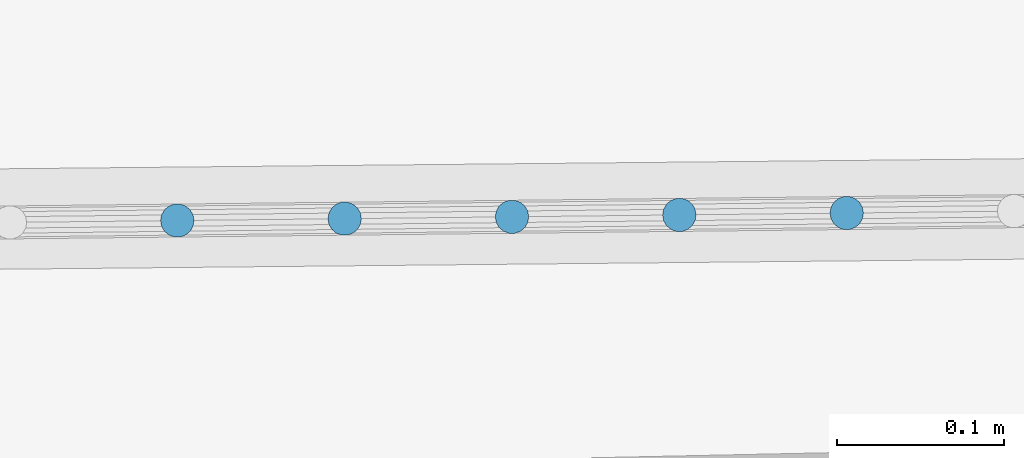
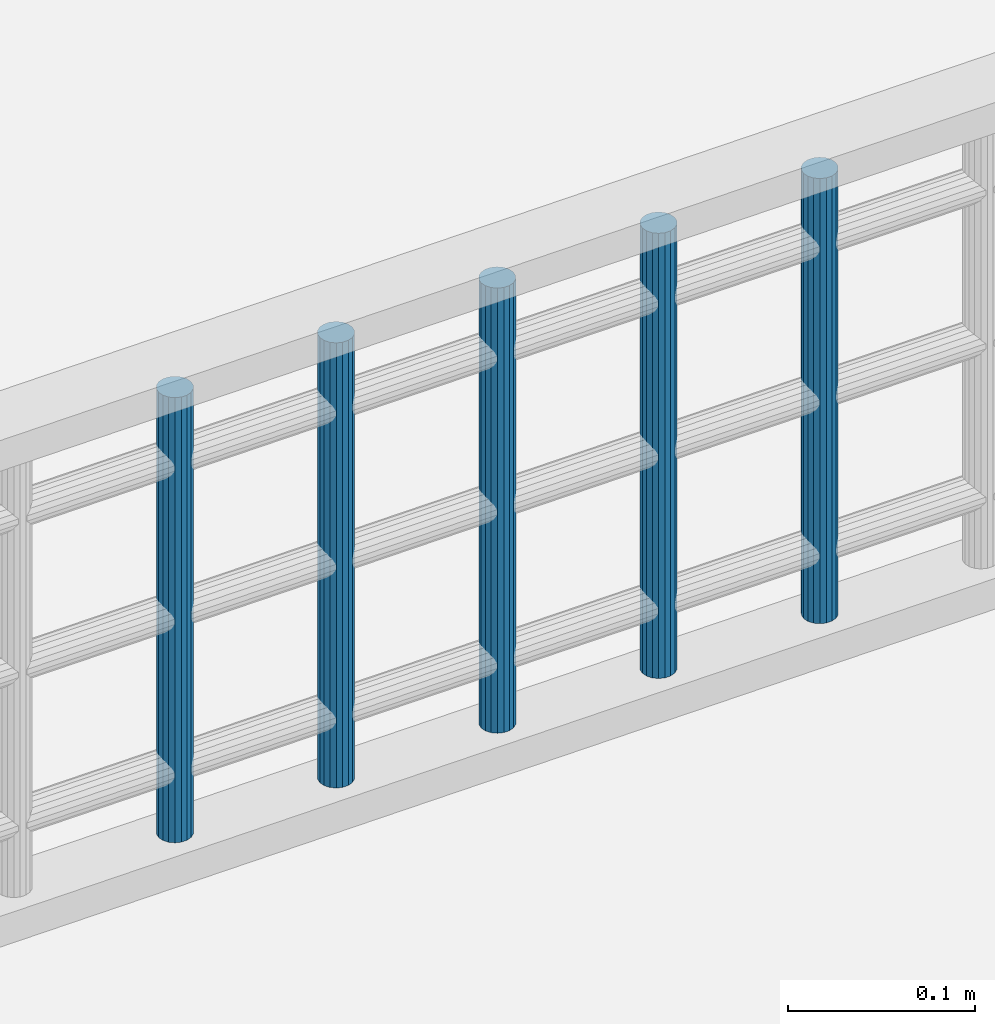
# One storey, part 29 of 97: 5 members, 1 element without a shape of its own.
"""IFC2X3 building model written with IfcOpenShell, lengths in centimetres."""

from ifc_helpers import new_model, entity, si_unit, converted_unit, direction, frame, origin, origin_with_axes, place, context, subcontext, project, spatial, faceted_brep, material, type_object, element, aggregate, save


model = new_model("IFC2X3")

# Units and contexts
model_context = context("Model", 3, precision=0.0001, world=origin(), true_north=direction((0.225632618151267, 0.974212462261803, 0.0)))
body_context = subcontext(model_context, "Body", "Model", "MODEL_VIEW")
ifc_project = project(units=[si_unit("LENGTHUNIT", "METRE", prefix="CENTI"), si_unit("AREAUNIT", "SQUARE_METRE", prefix="CENTI"), si_unit("VOLUMEUNIT", "CUBIC_METRE", prefix="CENTI"), converted_unit("PLANEANGLEUNIT", "DEGREE", entity("IfcRatioMeasure", 0.0174532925), si_unit("PLANEANGLEUNIT", "RADIAN"), dimensions=[0, 0, 0, 0, 0, 0, 0])], contexts=[model_context])

# Site, building, storey
site_placement = place(None, origin_with_axes())
site = spatial("IfcSite", under=ifc_project, at=site_placement, Name="Default Site", CompositionType="ELEMENT")
building_placement = place(site_placement, origin_with_axes())
building = spatial("IfcBuilding", under=site, at=building_placement, Name="Default Building", CompositionType="ELEMENT")
storey_placement = place(building_placement, origin_with_axes())
storey = spatial("IfcBuildingStorey", under=building, at=storey_placement, Name="Rez-de-chaussée", CompositionType="ELEMENT", Elevation=0.0)

# Assembly, members
building_element_proxy_type = type_object("IfcBuildingElementProxyType", Name="Type Object", PredefinedType="NOTDEFINED")
assembly_placement = place(storey_placement, frame((1081.21588561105, -852.417794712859, 9.99999999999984), z_axis=(0.0, 0.0, 1.0), x_axis=(-0.999937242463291, -0.0112031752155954, 0.0)))
assembly = element("IfcElementAssembly", 1, at=assembly_placement, inside=storey, type_object=building_element_proxy_type, Name="Panneau 1702014", ObjectType="Precast panel", PredefinedType="USERDEFINED")
ifc_material = material(Name="Aluminium satiné")
member_1_placement = place(assembly_placement, frame((107.439696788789, 0.342020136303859, 31.0000002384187), z_axis=(0.0, 0.0, 1.0), x_axis=(0.500008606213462, -0.866020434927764, 0.0)))
member_1 = element("IfcMember", 2, at=member_1_placement, material=ifc_material, Name="4294967139", context=body_context, shape_type="Brep", body=[
    faceted_brep([(-6.99440505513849e-13, -2.99760216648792e-13, 5.55111512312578e-15), (-0.347298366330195, -2.99760216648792e-13, 5.55111512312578e-15), (-0.673648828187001, -0.11877471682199, 5.55111512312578e-15), (-0.939699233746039, -0.342016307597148, 5.55111512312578e-15), (-1.11334843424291, -0.642778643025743, 5.55111512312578e-15), (-1.17366291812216, -0.984804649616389, 5.55111512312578e-15), (-1.11335640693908, -1.32682099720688, 5.55111512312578e-15), (-0.939713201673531, -1.62759365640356, 5.55111512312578e-15), (-0.673671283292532, -1.85083461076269, 5.55111512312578e-15), (-0.347320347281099, -1.96961967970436, 5.55111512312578e-15), (-2.19809515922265e-05, -1.96961967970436, 5.55111512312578e-15), (0.326328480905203, -1.85084496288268, 5.55111512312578e-15), (0.59237888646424, -1.62760337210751, 5.55111512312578e-15), (0.766028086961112, -1.32684103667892, 5.55111512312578e-15), (0.826342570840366, -0.984815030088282, 5.55111512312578e-15), (0.766036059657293, -0.64279868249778, 5.55111512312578e-15), (0.592392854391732, -0.342026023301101, 5.55111512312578e-15), (0.326350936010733, -0.118785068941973, 5.55111512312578e-15), (0.326350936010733, -0.118785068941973, -29.0000002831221), (0.592392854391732, -0.342026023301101, -29.0000002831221), (0.766036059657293, -0.64279868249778, -29.0000002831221), (0.826342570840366, -0.984815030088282, -29.0000002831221), (0.766028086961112, -1.32684103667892, -29.0000002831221), (0.59237888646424, -1.62760337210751, -29.0000002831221), (0.326328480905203, -1.85084496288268, -29.0000002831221), (-2.19809515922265e-05, -1.96961967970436, -29.0000002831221), (-0.347320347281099, -1.96961967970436, -29.0000002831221), (-0.673671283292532, -1.85083461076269, -29.0000002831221), (-0.939713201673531, -1.62759365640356, -29.0000002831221), (-1.11335640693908, -1.32682099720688, -29.0000002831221), (-1.17366291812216, -0.984804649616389, -29.0000002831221), (-1.11334843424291, -0.642778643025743, -29.0000002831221), (-0.939699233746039, -0.342016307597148, -29.0000002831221), (-0.673648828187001, -0.11877471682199, -29.0000002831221), (-0.347298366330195, -2.99760216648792e-13, -29.0000002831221), (-6.99440505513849e-13, -2.99760216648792e-13, -29.0000002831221), (0.592393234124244, -0.342025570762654, 5.55111512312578e-15), (0.592393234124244, -0.342025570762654, -29.0000002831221), (0.766039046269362, -0.642796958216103, 5.55111512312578e-15), (0.766039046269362, -0.642796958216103, -29.0000002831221), (0.826339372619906, -0.984815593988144, 5.55111512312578e-15), (0.826339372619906, -0.984815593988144, -29.0000002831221), (0.76603057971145, -1.32684147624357, 5.55111512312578e-15), (0.76603057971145, -1.32684147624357, -29.0000002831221), (0.592378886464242, -1.62760337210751, 5.55111512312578e-15), (0.592378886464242, -1.62760337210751, -29.0000002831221), (0.326326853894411, -1.85084302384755, 5.55111512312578e-15), (0.326326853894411, -1.85084302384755, -29.0000002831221), (-2.08702536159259e-05, -1.96962273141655, 5.55111512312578e-15), (-2.08702536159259e-05, -1.96962273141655, -29.0000002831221), (-0.347320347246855, -1.96961623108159, 5.55111512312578e-15), (-0.347320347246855, -1.96961623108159, -29.0000002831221), (-0.673671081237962, -1.85083405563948, 5.55111512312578e-15), (-0.673671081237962, -1.85083405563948, -29.0000002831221), (-0.939713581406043, -1.62759410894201, 5.55111512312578e-15), (-0.939713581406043, -1.62759410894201, -29.0000002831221), (-1.11335939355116, -1.32682272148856, 5.55111512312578e-15), (-1.11335939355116, -1.32682272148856, -29.0000002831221), (-1.17365971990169, -0.984804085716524, 5.55111512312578e-15), (-1.17365971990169, -0.984804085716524, -29.0000002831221), (-1.11335092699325, -0.64277820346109, 5.55111512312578e-15), (-1.11335092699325, -0.64277820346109, -29.0000002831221), (-0.939699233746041, -0.342016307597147, 5.55111512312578e-15), (-0.939699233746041, -0.342016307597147, -29.0000002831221), (-0.673647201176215, -0.118776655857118, 5.55111512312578e-15), (-0.673647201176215, -0.118776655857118, -29.0000002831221), (-0.34729947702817, 3.05171188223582e-06, 5.55111512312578e-15), (-0.34729947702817, 3.05171188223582e-06, -29.0000002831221), (-3.49437680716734e-11, -3.4486230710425e-06, 5.55111512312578e-15), (-3.49437680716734e-11, -3.4486230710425e-06, -29.0000002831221), (0.326350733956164, -0.118785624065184, 5.55111512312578e-15), (0.326350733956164, -0.118785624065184, -29.0000002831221)], [[[0, 1, 2, 3, 4, 5, 6, 7, 8, 9, 10, 11, 12, 13, 14, 15, 16, 17]], [[18, 19, 20, 21, 22, 23, 24, 25, 26, 27, 28, 29, 30, 31, 32, 33, 34, 35]], [[17, 36, 37, 18]], [[16, 38, 39, 19]], [[15, 40, 41, 20]], [[14, 42, 43, 21]], [[13, 44, 45, 22]], [[12, 46, 47, 23]], [[11, 48, 49, 24]], [[10, 50, 51, 25]], [[9, 52, 53, 26]], [[8, 54, 55, 27]], [[7, 56, 57, 28]], [[6, 58, 59, 29]], [[5, 60, 61, 30]], [[4, 62, 63, 31]], [[3, 64, 65, 32]], [[2, 66, 67, 33]], [[1, 68, 69, 34]], [[0, 70, 71, 35]]]),
])
member_2_placement = place(assembly_placement, frame((117.439687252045, 0.342020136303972, 31.0000002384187), z_axis=(0.0, 0.0, 1.0), x_axis=(0.499982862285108, -0.866035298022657, 0.0)))
member_2 = element("IfcMember", 3, at=member_2_placement, material=ifc_material, Name="4294967138", context=body_context, shape_type="Brep", body=[
    faceted_brep([(-2.88657986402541e-13, -1.77635683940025e-13, 1.11022302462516e-14), (-0.347292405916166, -1.33226762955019e-13, 1.11022302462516e-14), (-0.673645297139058, -0.118794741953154, 1.11022302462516e-14), (-0.939683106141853, -0.342033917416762, 1.11022302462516e-14), (-1.11332336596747, -0.642801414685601, 1.11022302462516e-14), (-1.17362768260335, -0.984829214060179, 1.11022302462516e-14), (-1.11331100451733, -1.32684376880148, 1.11022302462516e-14), (-0.93965885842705, -1.62761126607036, 1.11022302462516e-14), (-0.673610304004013, -1.85084431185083, 1.11022302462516e-14), (-0.347255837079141, -1.9696196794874, 1.11022302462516e-14), (4.25290969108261e-05, -1.96960935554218, 1.11022302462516e-14), (0.326389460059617, -1.85082493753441, 1.11022302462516e-14), (0.592433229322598, -1.62757543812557, 1.11022302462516e-14), (0.766073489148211, -1.32680794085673, 1.11022302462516e-14), (0.82637184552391, -0.984790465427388, 1.11022302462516e-14), (0.76606112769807, -0.642765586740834, 1.11022302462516e-14), (0.592403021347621, -0.342008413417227, 1.11022302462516e-14), (0.326354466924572, -0.118775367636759, 1.11022302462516e-14), (0.326354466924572, -0.118775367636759, -29.000000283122), (0.592403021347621, -0.342008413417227, -29.000000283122), (0.76606112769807, -0.642765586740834, -29.000000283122), (0.82637184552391, -0.984790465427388, -29.000000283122), (0.766073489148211, -1.32680794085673, -29.000000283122), (0.592433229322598, -1.62757543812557, -29.000000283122), (0.326389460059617, -1.85082493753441, -29.000000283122), (4.25290969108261e-05, -1.96960935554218, -29.000000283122), (-0.347255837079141, -1.9696196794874, -29.000000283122), (-0.673610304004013, -1.85084431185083, -29.000000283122), (-0.93965885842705, -1.62761126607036, -29.000000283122), (-1.11331100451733, -1.32684376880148, -29.000000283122), (-1.17362768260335, -0.984829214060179, -29.000000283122), (-1.11332336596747, -0.642801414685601, -29.000000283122), (-0.939683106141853, -0.342033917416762, -29.000000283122), (-0.673645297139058, -0.118794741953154, -29.000000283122), (-0.347292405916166, -1.33226762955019e-13, -29.000000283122), (-2.88657986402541e-13, -1.77635683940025e-13, -29.000000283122), (0.59240340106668, -0.342007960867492, 1.11022302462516e-14), (0.59240340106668, -0.342007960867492, -29.000000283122), (0.766055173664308, -0.642769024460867, 1.11022302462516e-14), (0.766055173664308, -0.642769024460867, -29.000000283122), (0.82637619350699, -0.984789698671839, 1.11022302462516e-14), (0.82637619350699, -0.984789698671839, -29.000000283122), (0.766071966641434, -1.32680767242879, 1.11022302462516e-14), (0.766071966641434, -1.32680767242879, -29.000000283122), (0.592433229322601, -1.62757543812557, 1.11022302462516e-14), (0.592433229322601, -1.62757543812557, -29.000000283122), (0.326387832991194, -1.85082299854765, 1.11022302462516e-14), (0.326387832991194, -1.85082299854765, -29.000000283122), (4.36398855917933e-05, -1.96961240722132, 1.11022302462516e-14), (4.36398855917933e-05, -1.96961240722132, -29.000000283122), (-0.347255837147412, -1.96961623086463, 1.11022302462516e-14), (-0.347255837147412, -1.96961623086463, -29.000000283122), (-0.673610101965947, -1.85084375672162, 1.11022302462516e-14), (-0.673610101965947, -1.85084375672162, -29.000000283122), (-0.939659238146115, -1.6276117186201, 1.11022302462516e-14), (-0.939659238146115, -1.6276117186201, -29.000000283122), (-1.11331399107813, -1.32684549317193, 1.11022302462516e-14), (-1.11331399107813, -1.32684549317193, -29.000000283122), (-1.17362448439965, -0.984828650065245, 1.11022302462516e-14), (-1.17362448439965, -0.984828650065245, -29.000000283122), (-1.11332585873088, -0.642800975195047, 1.11022302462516e-14), (-1.11332585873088, -0.642800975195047, -29.000000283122), (-0.939683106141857, -0.34203391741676, 1.11022302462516e-14), (-0.939683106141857, -0.34203391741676, -29.000000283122), (-0.67364629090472, -0.118793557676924, 1.11022302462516e-14), (-0.67364629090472, -0.118793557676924, -29.000000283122), (-0.347290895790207, -4.14878195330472e-06, 1.11022302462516e-14), (-0.347290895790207, -4.14878195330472e-06, -29.000000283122), (-1.36394244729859e-10, 6.87520432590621e-06, 1.11022302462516e-14), (-1.36394244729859e-10, 6.87520432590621e-06, -29.000000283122), (0.326354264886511, -0.118775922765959, 1.11022302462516e-14), (0.326354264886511, -0.118775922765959, -29.000000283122)], [[[0, 1, 2, 3, 4, 5, 6, 7, 8, 9, 10, 11, 12, 13, 14, 15, 16, 17]], [[18, 19, 20, 21, 22, 23, 24, 25, 26, 27, 28, 29, 30, 31, 32, 33, 34, 35]], [[17, 36, 37, 18]], [[16, 38, 39, 19]], [[15, 40, 41, 20]], [[14, 42, 43, 21]], [[13, 44, 45, 22]], [[12, 46, 47, 23]], [[11, 48, 49, 24]], [[10, 50, 51, 25]], [[9, 52, 53, 26]], [[8, 54, 55, 27]], [[7, 56, 57, 28]], [[6, 58, 59, 29]], [[5, 60, 61, 30]], [[4, 62, 63, 31]], [[3, 64, 65, 32]], [[2, 66, 67, 33]], [[1, 68, 69, 34]], [[0, 70, 71, 35]]]),
])
member_3_placement = place(assembly_placement, frame((127.439689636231, 0.342020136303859, 31.0000002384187), z_axis=(0.0, 0.0, 1.0), x_axis=(0.499982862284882, -0.866035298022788, 0.0)))
member_3 = element("IfcMember", 4, at=member_3_placement, material=ifc_material, Name="4294967137", context=body_context, shape_type="Brep", body=[
    faceted_brep([(-5.21804821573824e-13, -1.33226762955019e-13, 1.11022302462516e-14), (-0.3472924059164, -1.99840144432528e-13, 1.11022302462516e-14), (-0.673645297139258, -0.118794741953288, 1.11022302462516e-14), (-0.939683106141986, -0.34203391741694, 1.11022302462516e-14), (-1.11332932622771, -0.642811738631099, 1.11022302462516e-14), (-1.17362768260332, -0.984829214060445, 1.11022302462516e-14), (-1.1133110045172, -1.32684376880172, 1.11022302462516e-14), (-0.939658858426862, -1.62761126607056, 1.11022302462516e-14), (-0.673610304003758, -1.85084431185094, 1.11022302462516e-14), (-0.347255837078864, -1.96961967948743, 1.11022302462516e-14), (4.25290971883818e-05, -1.96960935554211, 1.11022302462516e-14), (0.326389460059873, -1.85082493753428, 1.11022302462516e-14), (0.592427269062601, -1.62758576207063, 1.11022302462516e-14), (0.766073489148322, -1.32680794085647, 1.11022302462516e-14), (0.826371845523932, -0.984790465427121, 1.11022302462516e-14), (0.766061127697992, -0.64276558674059, 1.11022302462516e-14), (0.592403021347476, -0.342008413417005, 1.11022302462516e-14), (0.326354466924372, -0.118775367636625, 1.11022302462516e-14), (0.326354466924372, -0.118775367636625, -29.000000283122), (0.592403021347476, -0.342008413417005, -29.000000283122), (0.766061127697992, -0.64276558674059, -29.000000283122), (0.826371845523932, -0.984790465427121, -29.000000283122), (0.766073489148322, -1.32680794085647, -29.000000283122), (0.592427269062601, -1.62758576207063, -29.000000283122), (0.326389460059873, -1.85082493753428, -29.000000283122), (4.25290971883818e-05, -1.96960935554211, -29.000000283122), (-0.347255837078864, -1.96961967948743, -29.000000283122), (-0.673610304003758, -1.85084431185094, -29.000000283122), (-0.939658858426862, -1.62761126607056, -29.000000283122), (-1.1133110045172, -1.32684376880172, -29.000000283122), (-1.17362768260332, -0.984829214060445, -29.000000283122), (-1.11332932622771, -0.642811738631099, -29.000000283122), (-0.939683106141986, -0.34203391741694, -29.000000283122), (-0.673645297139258, -0.118794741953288, -29.000000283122), (-0.3472924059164, -1.99840144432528e-13, -29.000000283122), (-5.21804821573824e-13, -1.33226762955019e-13, -29.000000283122), (0.592403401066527, -0.34200796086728, 1.11022302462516e-14), (0.592403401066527, -0.34200796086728, -29.000000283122), (0.766055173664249, -0.642769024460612, 1.11022302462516e-14), (0.766055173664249, -0.642769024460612, -29.000000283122), (0.826376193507, -0.984789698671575, 1.11022302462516e-14), (0.826376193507, -0.984789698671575, -29.000000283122), (0.766071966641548, -1.32680767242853, 1.11022302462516e-14), (0.766071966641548, -1.32680767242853, -29.000000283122), (0.592427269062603, -1.62758576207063, 1.11022302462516e-14), (0.592427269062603, -1.62758576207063, -29.000000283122), (0.326390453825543, -1.85082612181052, 1.11022302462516e-14), (0.326390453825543, -1.85082612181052, -29.000000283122), (4.36398858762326e-05, -1.96961240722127, 1.11022302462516e-14), (4.36398858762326e-05, -1.96961240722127, -29.000000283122), (-0.347255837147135, -1.96961623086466, 1.11022302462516e-14), (-0.347255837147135, -1.96961623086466, -29.000000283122), (-0.673610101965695, -1.85084375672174, 1.11022302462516e-14), (-0.673610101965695, -1.85084375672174, -29.000000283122), (-0.939659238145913, -1.62761171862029, 1.11022302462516e-14), (-0.939659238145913, -1.62761171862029, -29.000000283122), (-1.11331399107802, -1.32684549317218, 1.11022302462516e-14), (-1.11331399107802, -1.32684549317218, -29.000000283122), (-1.17362448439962, -0.984828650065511, 1.11022302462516e-14), (-1.17362448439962, -0.984828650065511, -29.000000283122), (-1.11332780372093, -0.642812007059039, 1.11022302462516e-14), (-1.11332780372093, -0.642812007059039, -29.000000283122), (-0.939683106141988, -0.342033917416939, 1.11022302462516e-14), (-0.939683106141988, -0.342033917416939, -29.000000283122), (-0.673646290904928, -0.118793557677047, 1.11022302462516e-14), (-0.673646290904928, -0.118793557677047, -29.000000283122), (-0.347290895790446, -4.14878200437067e-06, 1.11022302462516e-14), (-0.347290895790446, -4.14878200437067e-06, -29.000000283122), (-1.36627392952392e-10, 6.87520434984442e-06, 1.11022302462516e-14), (-1.36627392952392e-10, 6.87520434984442e-06, -29.000000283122), (0.326354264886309, -0.11877592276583, 1.11022302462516e-14), (0.326354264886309, -0.11877592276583, -29.000000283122)], [[[0, 1, 2, 3, 4, 5, 6, 7, 8, 9, 10, 11, 12, 13, 14, 15, 16, 17]], [[18, 19, 20, 21, 22, 23, 24, 25, 26, 27, 28, 29, 30, 31, 32, 33, 34, 35]], [[17, 36, 37, 18]], [[16, 38, 39, 19]], [[15, 40, 41, 20]], [[14, 42, 43, 21]], [[13, 44, 45, 22]], [[12, 46, 47, 23]], [[11, 48, 49, 24]], [[10, 50, 51, 25]], [[9, 52, 53, 26]], [[8, 54, 55, 27]], [[7, 56, 57, 28]], [[6, 58, 59, 29]], [[5, 60, 61, 30]], [[4, 62, 63, 31]], [[3, 64, 65, 32]], [[2, 66, 67, 33]], [[1, 68, 69, 34]], [[0, 70, 71, 35]]]),
])
member_4_placement = place(assembly_placement, frame((137.439692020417, 0.342020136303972, 31.0000002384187), z_axis=(0.0, 0.0, 1.0), x_axis=(0.500008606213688, -0.866020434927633, 0.0)))
member_4 = element("IfcMember", 5, at=member_4_placement, material=ifc_material, Name="4294967136", context=body_context, shape_type="Brep", body=[
    faceted_brep([(-5.55111512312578e-13, -2.22044604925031e-13, 5.55111512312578e-15), (-0.347298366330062, -1.33226762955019e-13, 5.55111512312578e-15), (-0.673648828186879, -0.118774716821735, 5.55111512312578e-15), (-0.939693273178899, -0.342005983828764, 5.55111512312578e-15), (-1.11334843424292, -0.642778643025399, 5.55111512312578e-15), (-1.1736569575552, -0.984794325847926, 5.55111512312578e-15), (-1.11335640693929, -1.32682099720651, 5.55111512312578e-15), (-0.939707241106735, -1.62758333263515, 5.55111512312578e-15), (-0.673665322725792, -1.85082428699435, 5.55111512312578e-15), (-0.347314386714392, -1.96960935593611, 5.55111512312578e-15), (-2.19809519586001e-05, -1.96961967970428, 5.55111512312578e-15), (0.326334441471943, -1.8508346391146, 5.55111512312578e-15), (0.592378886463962, -1.62760337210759, 5.55111512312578e-15), (0.766034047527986, -1.32683071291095, 5.55111512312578e-15), (0.826342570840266, -0.984815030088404, 5.55111512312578e-15), (0.766036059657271, -0.642798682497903, 5.55111512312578e-15), (0.592392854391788, -0.342026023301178, 5.55111512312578e-15), (0.326350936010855, -0.118785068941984, 5.55111512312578e-15), (0.326350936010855, -0.118785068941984, -29.000000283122), (0.592392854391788, -0.342026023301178, -29.000000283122), (0.766036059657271, -0.642798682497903, -29.000000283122), (0.826342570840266, -0.984815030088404, -29.000000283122), (0.766034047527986, -1.32683071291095, -29.000000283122), (0.592378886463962, -1.62760337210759, -29.000000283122), (0.326334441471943, -1.8508346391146, -29.000000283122), (-2.19809519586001e-05, -1.96961967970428, -29.000000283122), (-0.347314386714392, -1.96960935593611, -29.000000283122), (-0.673665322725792, -1.85082428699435, -29.000000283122), (-0.939707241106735, -1.62758333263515, -29.000000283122), (-1.11335640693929, -1.32682099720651, -29.000000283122), (-1.1736569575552, -0.984794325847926, -29.000000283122), (-1.11334843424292, -0.642778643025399, -29.000000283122), (-0.939693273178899, -0.342005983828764, -29.000000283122), (-0.673648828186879, -0.118774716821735, -29.000000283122), (-0.347298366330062, -1.33226762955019e-13, -29.000000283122), (-5.55111512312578e-13, -2.22044604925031e-13, -29.000000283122), (0.592393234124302, -0.342025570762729, 5.55111512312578e-15), (0.592393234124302, -0.342025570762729, -29.000000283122), (0.766039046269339, -0.642796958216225, 5.55111512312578e-15), (0.766039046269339, -0.642796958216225, -29.000000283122), (0.826339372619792, -0.984815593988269, 5.55111512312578e-15), (0.826339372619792, -0.984815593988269, -29.000000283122), (0.766032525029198, -1.32683044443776, 5.55111512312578e-15), (0.766032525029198, -1.32683044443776, -29.000000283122), (0.326335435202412, -1.85083582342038, 5.55111512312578e-15), (0.326335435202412, -1.85083582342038, -29.000000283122), (-2.34909545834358e-05, -1.96961553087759, 5.55111512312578e-15), (-2.34909545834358e-05, -1.96961553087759, -29.000000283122), (-0.347314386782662, -1.96961623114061, 5.55111512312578e-15), (-0.347314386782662, -1.96961623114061, -29.000000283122), (-0.673665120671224, -1.85082373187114, 5.55111512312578e-15), (-0.673665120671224, -1.85082373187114, -29.000000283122), (-0.939707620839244, -1.6275837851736, 5.55111512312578e-15), (-0.939707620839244, -1.6275837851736, -29.000000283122), (-1.11335045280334, -1.32681755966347, 5.55111512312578e-15), (-1.11335045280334, -1.32681755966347, -29.000000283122), (-1.17366130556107, -0.984795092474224, 5.55111512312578e-15), (-1.17366130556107, -0.984795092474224, -29.000000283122), (-1.11334691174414, -0.642778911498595, 5.55111512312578e-15), (-1.11334691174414, -0.642778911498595, -29.000000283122), (-0.673649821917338, -0.118773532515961, 5.55111512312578e-15), (-0.673649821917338, -0.118773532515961, -29.000000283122), (-0.347299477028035, 3.05171204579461e-06, 5.55111512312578e-15), (-0.347299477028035, 3.05171204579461e-06, -29.000000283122), (-3.47994399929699e-11, -3.4486229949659e-06, 5.55111512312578e-15), (-3.47994399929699e-11, -3.4486229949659e-06, -29.000000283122), (0.326350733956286, -0.118785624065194, 5.55111512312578e-15), (0.326350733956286, -0.118785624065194, -29.000000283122)], [[[0, 1, 2, 3, 4, 5, 6, 7, 8, 9, 10, 11, 12, 13, 14, 15, 16, 17]], [[18, 19, 20, 21, 22, 23, 24, 25, 26, 27, 28, 29, 30, 31, 32, 33, 34, 35]], [[17, 36, 37, 18]], [[16, 38, 39, 19]], [[15, 40, 41, 20]], [[14, 42, 43, 21]], [[13, 12, 23, 22]], [[12, 44, 45, 23]], [[11, 46, 47, 24]], [[10, 48, 49, 25]], [[9, 50, 51, 26]], [[8, 52, 53, 27]], [[7, 54, 55, 28]], [[6, 56, 57, 29]], [[5, 58, 59, 30]], [[4, 3, 32, 31]], [[3, 60, 61, 32]], [[2, 62, 63, 33]], [[1, 64, 65, 34]], [[0, 66, 67, 35]]]),
])
member_5_placement = place(assembly_placement, frame((147.439694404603, 0.342020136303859, 31.0000002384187), z_axis=(0.0, 0.0, 1.0), x_axis=(0.500008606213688, -0.866020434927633, 0.0)))
member_5 = element("IfcMember", 6, at=member_5_placement, material=ifc_material, Name="4294967135", context=body_context, shape_type="Brep", body=[
    faceted_brep([(-7.43849426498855e-13, -3.10862446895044e-13, 5.55111512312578e-15), (-0.347298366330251, -2.22044604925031e-13, 5.55111512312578e-15), (-0.673648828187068, -0.118774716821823, 5.55111512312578e-15), (-0.939699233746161, -0.342016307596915, 5.55111512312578e-15), (-1.11334843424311, -0.642778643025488, 5.55111512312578e-15), (-1.17365695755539, -0.984794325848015, 5.55111512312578e-15), (-1.11335640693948, -1.3268209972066, 5.55111512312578e-15), (-0.939707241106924, -1.62758333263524, 5.55111512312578e-15), (-0.67366532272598, -1.85082428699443, 5.55111512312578e-15), (-0.347314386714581, -1.9696093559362, 5.55111512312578e-15), (-2.1980952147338e-05, -1.96961967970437, 5.55111512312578e-15), (0.326334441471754, -1.85083463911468, 5.55111512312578e-15), (0.592378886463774, -1.62760337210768, 5.55111512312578e-15), (0.766028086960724, -1.32684103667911, 5.55111512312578e-15), (0.826342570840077, -0.984815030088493, 5.55111512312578e-15), (0.766036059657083, -0.642798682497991, 5.55111512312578e-15), (0.592392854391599, -0.342026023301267, 5.55111512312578e-15), (0.326350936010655, -0.118785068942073, 5.55111512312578e-15), (0.326350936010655, -0.118785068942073, -29.000000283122), (0.592392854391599, -0.342026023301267, -29.000000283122), (0.766036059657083, -0.642798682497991, -29.000000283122), (0.826342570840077, -0.984815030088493, -29.000000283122), (0.766028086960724, -1.32684103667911, -29.000000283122), (0.592378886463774, -1.62760337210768, -29.000000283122), (0.326334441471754, -1.85083463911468, -29.000000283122), (-2.1980952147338e-05, -1.96961967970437, -29.000000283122), (-0.347314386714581, -1.9696093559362, -29.000000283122), (-0.67366532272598, -1.85082428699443, -29.000000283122), (-0.939707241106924, -1.62758333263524, -29.000000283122), (-1.11335640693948, -1.3268209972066, -29.000000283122), (-1.17365695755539, -0.984794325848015, -29.000000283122), (-1.11334843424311, -0.642778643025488, -29.000000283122), (-0.939699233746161, -0.342016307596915, -29.000000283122), (-0.673648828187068, -0.118774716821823, -29.000000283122), (-0.347298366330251, -2.22044604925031e-13, -29.000000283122), (-7.43849426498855e-13, -3.10862446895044e-13, -29.000000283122), (0.592393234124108, -0.342025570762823, 5.55111512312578e-15), (0.592393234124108, -0.342025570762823, -29.000000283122), (0.76603904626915, -0.642796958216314, 5.55111512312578e-15), (0.76603904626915, -0.642796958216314, -29.000000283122), (0.826339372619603, -0.984815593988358, 5.55111512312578e-15), (0.826339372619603, -0.984815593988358, -29.000000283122), (0.766030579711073, -1.32684147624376, 5.55111512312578e-15), (0.766030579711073, -1.32684147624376, -29.000000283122), (0.592378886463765, -1.62760337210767, 5.55111512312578e-15), (0.592378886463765, -1.62760337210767, -29.000000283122), (0.326335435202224, -1.85083582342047, 5.55111512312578e-15), (0.326335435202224, -1.85083582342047, -29.000000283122), (-2.34909547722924e-05, -1.96961553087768, 5.55111512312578e-15), (-2.34909547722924e-05, -1.96961553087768, -29.000000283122), (-0.347314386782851, -1.9696162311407, 5.55111512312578e-15), (-0.347314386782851, -1.9696162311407, -29.000000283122), (-0.673665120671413, -1.85082373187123, 5.55111512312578e-15), (-0.673665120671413, -1.85082373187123, -29.000000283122), (-0.939707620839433, -1.62758378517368, 5.55111512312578e-15), (-0.939707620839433, -1.62758378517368, -29.000000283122), (-1.11335045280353, -1.32681755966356, 5.55111512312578e-15), (-1.11335045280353, -1.32681755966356, -29.000000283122), (-1.17366130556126, -0.984795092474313, 5.55111512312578e-15), (-1.17366130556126, -0.984795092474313, -29.000000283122), (-1.11334691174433, -0.642778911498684, 5.55111512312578e-15), (-1.11334691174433, -0.642778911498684, -29.000000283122), (-0.939699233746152, -0.34201630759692, 5.55111512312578e-15), (-0.939699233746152, -0.34201630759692, -29.000000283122), (-0.673647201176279, -0.118776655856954, 5.55111512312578e-15), (-0.673647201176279, -0.118776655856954, -29.000000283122), (-0.347299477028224, 3.05171195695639e-06, 5.55111512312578e-15), (-0.347299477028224, 3.05171195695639e-06, -29.000000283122), (-3.49881779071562e-11, -3.44862308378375e-06, 5.55111512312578e-15), (-3.49881779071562e-11, -3.44862308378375e-06, -29.000000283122), (0.326350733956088, -0.11878562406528, 5.55111512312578e-15), (0.326350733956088, -0.11878562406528, -29.000000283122)], [[[0, 1, 2, 3, 4, 5, 6, 7, 8, 9, 10, 11, 12, 13, 14, 15, 16, 17]], [[18, 19, 20, 21, 22, 23, 24, 25, 26, 27, 28, 29, 30, 31, 32, 33, 34, 35]], [[17, 36, 37, 18]], [[16, 38, 39, 19]], [[15, 40, 41, 20]], [[14, 42, 43, 21]], [[13, 44, 45, 22]], [[12, 46, 47, 23]], [[11, 48, 49, 24]], [[10, 50, 51, 25]], [[9, 52, 53, 26]], [[8, 54, 55, 27]], [[7, 56, 57, 28]], [[6, 58, 59, 29]], [[5, 60, 61, 30]], [[4, 62, 63, 31]], [[3, 64, 65, 32]], [[2, 66, 67, 33]], [[1, 68, 69, 34]], [[0, 70, 71, 35]]]),
])
aggregate(assembly, [member_1, member_2, member_3, member_4, member_5])

save(model, "model.ifc")
